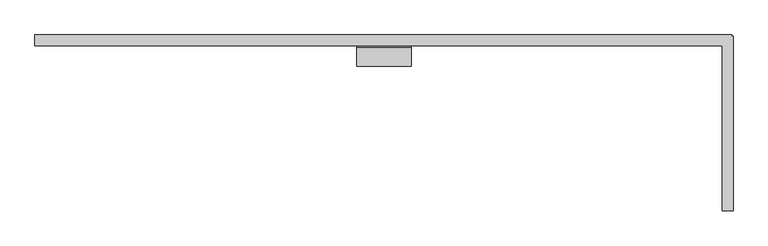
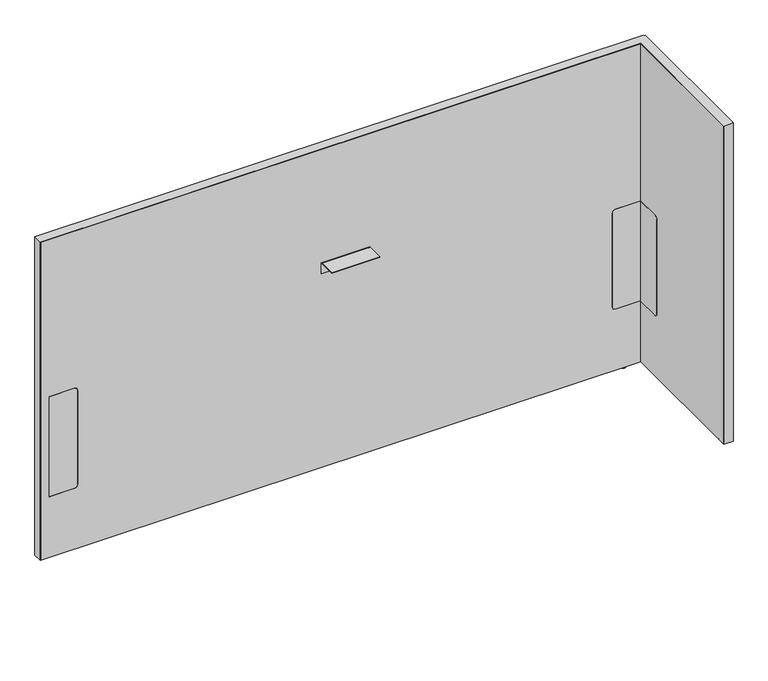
"""IFC4 building model written with IfcOpenShell, lengths in millimetres: furniture geometry, Steelcase - Answer Solution - Boundary Screen - L Return - Single Sided : 42H x 75W."""

from ifc_helpers import new_model, si_unit, point, frame, frame_2d, origin, place, context, project, spatial, polyline, circle_curve, ellipse_curve, trimmed, segment, composite_curve, outline, extrude, faceted_brep, source, transform, mapped, element, save
from ifc_brep_helpers import plane_surface, cylinder_surface, revolved_surface, advanced_brep


def furniture_e51d8ff3(model_context):
    return source(origin(), model_context, "Body", "SolidModel", [
        extrude(outline(composite_curve([segment(polyline([(-109.3501471, 549.6162029), (-29.0550397, 549.6162029), (-29.0550397, 213.7762137), (-109.3501471, 213.7762137)]), True, "CONTINUOUS"), segment(trimmed(circle_curve(frame_2d((-109.3501471, 223.9362137)), 10.16), [point((-109.3501471, 213.7762137))], [point((-119.5101471, 223.9362137))], False, "CARTESIAN"), True, "CONTINUOUS"), segment(polyline([(-119.5101471, 223.9362137), (-119.5101471, 539.4562029)]), True, "CONTINUOUS"), segment(trimmed(circle_curve(frame_2d((-109.3501471, 539.4562029)), 10.16), [point((-119.5101471, 539.4562029))], [point((-109.3501471, 549.6162029))], False, "CARTESIAN"), True, "CONTINUOUS")], self_intersect=False)), frame((2134.8191891, 0.0, 0.0), z_axis=(1.0, 0.0, 0.0), x_axis=(0.0, 1.0, 0.0)), (0.0, 0.0, 1.0), 0.6401544),
        advanced_brep(
        [(2149.6672074, -448.0136072, 0.0), (2156.6216144, -448.0136072, 0.0), (2142.7128003, -448.0136072, 0.0), (2158.0762685, -448.0136072, 1.2700001), (2141.2581463, -448.0136072, 1.2700001), (2158.0762685, -448.0136072, 2.9673238), (2141.2581463, -448.0136072, 2.9673238), (2159.0427877, -448.0136072, 2.9673238), (2140.291627, -448.0136072, 2.9673238), (2159.0427877, -448.0136072, 9.9059849), (2140.291627, -448.0136072, 9.9059849), (2149.6672074, -448.0136072, 9.9059849)],
        [
            (0, 1),
            (1, 2, circle_curve(frame((2149.6672074, -448.0136072, 0.0), z_axis=(0.0, 0.0, -1.0), x_axis=(1.0, 0.0, 0.0)), 6.9544071)),
            (2, 0),
            (2, 1, circle_curve(frame((2149.6672074, -448.0136072, 0.0), z_axis=(0.0, 0.0, -1.0), x_axis=(1.0, 0.0, 0.0)), 6.9544071)),
            (1, 3, circle_curve(frame((2156.7945484, -448.0136072, 1.2700001), z_axis=(0.0, -1.0, 0.0), x_axis=(0.0, 0.0, 1.0)), 1.2817201)),
            (3, 4, circle_curve(frame((2149.6672074, -448.0136072, 1.2700001), z_axis=(0.0, 0.0, -1.0), x_axis=(1.0, 0.0, 0.0)), 8.4090611)),
            (4, 2, circle_curve(frame((2142.5398663, -448.0136072, 1.2700001), z_axis=(0.0, -1.0, 0.0), x_axis=(0.0, 0.0, 1.0)), 1.2817201)),
            (4, 3, circle_curve(frame((2149.6672074, -448.0136072, 1.2700001), z_axis=(0.0, 0.0, -1.0), x_axis=(1.0, 0.0, 0.0)), 8.4090611)),
            (3, 5),
            (5, 6, circle_curve(frame((2149.6672074, -448.0136072, 2.9673238), z_axis=(0.0, 0.0, -1.0), x_axis=(1.0, 0.0, 0.0)), 8.4090611)),
            (6, 4),
            (6, 5, circle_curve(frame((2149.6672074, -448.0136072, 2.9673238), z_axis=(0.0, 0.0, -1.0), x_axis=(1.0, 0.0, 0.0)), 8.4090611)),
            (5, 7),
            (7, 8, circle_curve(frame((2149.6672074, -448.0136072, 2.9673238), z_axis=(0.0, 0.0, -1.0), x_axis=(1.0, 0.0, 0.0)), 9.3755804)),
            (8, 6),
            (8, 7, circle_curve(frame((2149.6672074, -448.0136072, 2.9673238), z_axis=(0.0, 0.0, -1.0), x_axis=(1.0, 0.0, 0.0)), 9.3755804)),
            (7, 9),
            (9, 10, circle_curve(frame((2149.6672074, -448.0136072, 9.9059849), z_axis=(0.0, 0.0, -1.0), x_axis=(1.0, 0.0, 0.0)), 9.3755804)),
            (10, 8),
            (10, 9, circle_curve(frame((2149.6672074, -448.0136072, 9.9059849), z_axis=(0.0, 0.0, -1.0), x_axis=(1.0, 0.0, 0.0)), 9.3755804)),
            (9, 11),
            (11, 10),
        ],
        [
            plane_surface(frame((2149.6672074, -448.0136072, 0.0), z_axis=(0.0, 0.0, -1.0), x_axis=(1.0, 0.0, 0.0))),
            revolved_surface(trimmed(ellipse_curve(frame((2156.7945484, -448.0136072, 1.2700001), z_axis=(0.0, 1.0, 0.0), x_axis=(0.0, 0.0, 1.0)), 1.2817201, 1.2817201), [point((2158.0762685, -448.0136072, 1.2700001))], [point((2156.6216144, -448.0136072, 0.0))], True, "CARTESIAN"), (2149.6672074, -448.0136072, 9.9059849), (0.0, 0.0, -1.0)),
            cylinder_surface(frame((2149.6672074, -448.0136072, 9.9059849), z_axis=(0.0, 0.0, -1.0), x_axis=(1.0, 0.0, 0.0)), 8.4090611),
            plane_surface(frame((2149.6672074, -448.0136072, 2.9673238), z_axis=(0.0, 0.0, -1.0), x_axis=(1.0, 0.0, 0.0))),
            cylinder_surface(frame((2149.6672074, -448.0136072, 9.9059849), z_axis=(0.0, 0.0, -1.0), x_axis=(1.0, 0.0, 0.0)), 9.3755804),
            plane_surface(frame((2149.6672074, -448.0136072, 9.9059849), z_axis=(0.0, 0.0, 1.0), x_axis=(1.0, 0.0, 0.0))),
        ],
        [
            (0, [[1, 2, 3]]),
            (0, [[-3, 4, -1]]),
            (1, [[-2, 5, 6, 7]]),
            (1, [[-4, -7, 8, -5]]),
            (2, [[-6, 9, 10, 11]]),
            (2, [[-8, -11, 12, -9]]),
            (3, [[-10, 13, 14, 15]]),
            (3, [[-12, -15, 16, -13]]),
            (4, [[-14, 17, 18, 19]]),
            (4, [[-16, -19, 20, -17]]),
            (5, [[-18, 21, 22]]),
            (5, [[-20, -22, -21]]),
        ],
    ),
        faceted_brep([(2161.2531179, 0.0, 1077.722), (2161.2531179, 0.0, 9.9059849), (2160.2621491, 0.0, 9.9059849), (2160.2621491, 0.0, 1076.742118), (230.8097779, 0.0, 1076.742118), (230.8097779, 0.0, 9.9059849), (229.8191891, 0.0, 9.9059849), (229.8191891, 0.0, 1077.722), (229.8191891, -29.6898332, 1077.722), (229.8191891, -29.6898332, 9.9059849), (230.8097779, -29.6898332, 9.9059849), (230.8097779, -29.6898332, 1076.742118), (2134.8191891, -29.6898332, 1076.742118), (2134.8191891, -29.6898332, 1077.722), (2160.2621491, -29.6898332, 1076.742118), (2160.2621491, -29.6898332, 9.9059849), (2161.2531179, -29.6898332, 9.9059849), (2161.2531179, -29.6898332, 1076.742118), (2161.2531179, -3.2625916, 1077.722), (2161.2531179, -3.2625916, 9.9059849), (2161.2531179, -4.252647, 9.9059849), (2161.2531179, -4.252647, 1076.742118), (2164.5152256, -3.2625916, 9.9059849), (2164.5152256, -4.252647, 9.9059849), (2160.2621491, -4.252647, 9.9059849), (2134.8191891, -4.252647, 9.9059849), (2134.8191891, -3.2625916, 9.9059849), (2160.2621491, -3.2625916, 9.9059849), (2134.8191891, -486.8898332, 1077.722), (2164.5152256, -486.8898332, 1077.722), (2164.5152256, -3.2625916, 1077.722), (2160.2621491, -3.2625916, 1076.742118), (2160.2621491, -4.252647, 1076.742118), (2134.8191891, -3.2625916, 1076.742118), (2134.8191891, -4.252647, 1076.742118), (2164.5152256, -4.252647, 1076.742118), (2164.5152256, -485.899196, 1076.742118), (2134.8191891, -485.899196, 1076.742118), (2134.8191891, -485.899196, 9.9059849), (2134.8191891, -486.8898332, 9.9059849), (2164.5152256, -486.8898332, 9.9059849), (2164.5152256, -485.899196, 9.9059849)], [[[0, 1, 2, 3, 4, 5, 6, 7]], [[8, 9, 10, 11, 12, 13]], [[14, 15, 16, 17]], [[1, 0, 18, 19]], [[17, 16, 20, 21]], [[2, 1, 19, 22, 23, 20, 16, 15, 24, 25, 26, 27]], [[7, 6, 9, 8]], [[0, 7, 8, 13, 28, 29, 30, 18]], [[3, 2, 27, 31]], [[15, 14, 32, 24]], [[4, 3, 31, 33, 34, 32, 14, 17, 21, 35, 36, 37, 12, 11]], [[5, 4, 11, 10]], [[6, 5, 10, 9]], [[26, 25, 34, 33]], [[37, 38, 39, 28, 13, 12]], [[29, 40, 41, 36, 35, 23, 22, 30]], [[27, 26, 33, 31]], [[30, 22, 19, 18]], [[34, 25, 24, 32]], [[23, 35, 21, 20]], [[38, 37, 36, 41]], [[39, 38, 41, 40]], [[28, 39, 40, 29]]]),
        extrude(outline(composite_curve([segment(polyline([(-86.8398151, 696.4680019), (-86.8398151, 698.5), (-34.9450855, 698.5)]), True, "CONTINUOUS"), segment(trimmed(circle_curve(frame_2d((-34.9450855, 693.2447477)), 5.2552523), [point((-34.9450855, 698.5))], [point((-29.6898332, 693.2447477))], False, "CARTESIAN"), True, "CONTINUOUS"), segment(polyline([(-29.6898332, 693.2447477), (-29.6898332, 660.4), (-31.7218162, 660.4), (-31.7218162, 693.0058743)]), True, "CONTINUOUS"), segment(trimmed(circle_curve(frame_2d((-35.1839438, 693.0058743)), 3.4621276), [point((-31.7218162, 693.0058743))], [point((-35.1839438, 696.4680019))], True, "CARTESIAN"), True, "CONTINUOUS"), segment(polyline([(-35.1839438, 696.4680019), (-86.8398151, 696.4680019)]), True, "CONTINUOUS")], self_intersect=False)), frame((1120.9685899, 0.0, 0.0), z_axis=(1.0, 0.0, 0.0), x_axis=(0.0, 1.0, 0.0)), (0.0, 0.0, 1.0), 152.4000969),
        advanced_brep(
        [(2087.3246853, -23.7588726, 9.9059849), (2087.3246853, -5.9309607, 9.9059849), (2087.3246853, -14.8449166, 9.9059849), (2087.3246853, -23.7588726, 2.9673238), (2087.3246853, -5.9309607, 2.9673238), (2087.3246853, -22.7915354, 2.9673238), (2087.3246853, -6.8982978, 2.9673238), (2087.3246853, -22.7915354, 1.6569081), (2087.3246853, -6.8982978, 1.6569081), (2087.3246853, -21.1346274, 0.0), (2087.3246853, -8.5552059, 0.0), (2087.3246853, -14.8449166, 0.0)],
        [
            (0, 1, circle_curve(frame((2087.3246853, -14.8449166, 9.9059849), z_axis=(0.0, 0.0, 1.0), x_axis=(0.0, 1.0, 0.0)), 8.913956)),
            (1, 2),
            (2, 0),
            (1, 0, circle_curve(frame((2087.3246853, -14.8449166, 9.9059849), z_axis=(0.0, 0.0, 1.0), x_axis=(0.0, 1.0, 0.0)), 8.913956)),
            (3, 4, circle_curve(frame((2087.3246853, -14.8449166, 2.9673238), z_axis=(0.0, 0.0, 1.0), x_axis=(0.0, 1.0, 0.0)), 8.913956)),
            (4, 1),
            (0, 3),
            (4, 3, circle_curve(frame((2087.3246853, -14.8449166, 2.9673238), z_axis=(0.0, 0.0, 1.0), x_axis=(0.0, 1.0, 0.0)), 8.913956)),
            (5, 6, circle_curve(frame((2087.3246853, -14.8449166, 2.9673238), z_axis=(0.0, 0.0, 1.0), x_axis=(0.0, 1.0, 0.0)), 7.9466188)),
            (6, 4),
            (3, 5),
            (6, 5, circle_curve(frame((2087.3246853, -14.8449166, 2.9673238), z_axis=(0.0, 0.0, 1.0), x_axis=(0.0, 1.0, 0.0)), 7.9466188)),
            (7, 8, circle_curve(frame((2087.3246853, -14.8449166, 1.6569081), z_axis=(0.0, 0.0, 1.0), x_axis=(0.0, 1.0, 0.0)), 7.9466188)),
            (8, 6),
            (5, 7),
            (8, 7, circle_curve(frame((2087.3246853, -14.8449166, 1.6569081), z_axis=(0.0, 0.0, 1.0), x_axis=(0.0, 1.0, 0.0)), 7.9466188)),
            (9, 10, circle_curve(frame((2087.3246853, -14.8449166, 0.0), z_axis=(0.0, 0.0, 1.0), x_axis=(0.0, 1.0, 0.0)), 6.2897107)),
            (10, 8, circle_curve(frame((2087.3246853, -8.5552059, 1.6569081), z_axis=(1.0, 0.0, 0.0), x_axis=(0.0, 1.0, 0.0)), 1.6569081)),
            (7, 9, circle_curve(frame((2087.3246853, -21.1346274, 1.6569081), z_axis=(1.0, 0.0, 0.0), x_axis=(0.0, -1.0, 0.0)), 1.6569081)),
            (10, 9, circle_curve(frame((2087.3246853, -14.8449166, 0.0), z_axis=(0.0, 0.0, 1.0), x_axis=(0.0, 1.0, 0.0)), 6.2897107)),
            (11, 10),
            (9, 11),
        ],
        [
            plane_surface(frame((2087.3246853, -14.8449166, 9.9059849), z_axis=(0.0, 0.0, 1.0), x_axis=(0.0, 1.0, 0.0))),
            cylinder_surface(frame((2087.3246853, -14.8449166, 9.9059849), z_axis=(0.0, 0.0, -1.0), x_axis=(0.0, 1.0, 0.0)), 8.913956),
            plane_surface(frame((2087.3246853, -14.8449166, 2.9673238), z_axis=(0.0, 0.0, -1.0), x_axis=(0.0, 1.0, 0.0))),
            cylinder_surface(frame((2087.3246853, -14.8449166, 9.9059849), z_axis=(0.0, 0.0, -1.0), x_axis=(0.0, 1.0, 0.0)), 7.9466188),
            revolved_surface(trimmed(ellipse_curve(frame((2087.3246853, -8.5552059, 1.6569081), z_axis=(-1.0, 0.0, 0.0), x_axis=(0.0, 1.0, 0.0)), 1.6569081, 1.6569081), [point((2087.3246853, -6.8982978, 1.6569081))], [point((2087.3246853, -8.5552059, 0.0))], True, "CARTESIAN"), (2087.3246853, -14.8449166, 9.9059849), (0.0, 0.0, -1.0)),
            plane_surface(frame((2087.3246853, -14.8449166, 0.0), z_axis=(0.0, 0.0, -1.0), x_axis=(0.0, 1.0, 0.0))),
        ],
        [
            (0, [[1, 2, 3]]),
            (0, [[4, -3, -2]]),
            (1, [[5, 6, -1, 7]]),
            (1, [[8, -7, -4, -6]]),
            (2, [[9, 10, -5, 11]]),
            (2, [[12, -11, -8, -10]]),
            (3, [[13, 14, -9, 15]]),
            (3, [[16, -15, -12, -14]]),
            (4, [[17, 18, -13, 19]]),
            (4, [[20, -19, -16, -18]]),
            (5, [[21, -17, 22]]),
            (5, [[-22, -20, -21]]),
        ],
    ),
        advanced_brep(
        [(230.8097779, 0.0, 1076.742118), (2160.2621491, 0.0, 1076.742118), (2160.2621491, 0.0, 9.9059849), (230.8097779, 0.0, 9.9059849), (347.9483813, -29.0550397, 539.4562029), (337.7883813, -29.0550397, 549.6162029), (258.1344836, -29.0550397, 549.6162029), (258.1344836, -29.0550397, 213.7762137), (337.7883813, -29.0550397, 213.7762137), (347.9483813, -29.0550397, 223.9362137), (2135.4593435, -29.0550397, 213.7762137), (2135.4593435, -29.0550397, 549.6162029), (2054.9109268, -29.0550397, 549.6162029), (2044.7509268, -29.0550397, 539.4562029), (2044.7509268, -29.0550397, 223.9362137), (2054.9109268, -29.0550397, 213.7762137), (230.8097779, -29.6898332, 1076.742118), (230.8097779, -29.6898332, 9.9059849), (2134.8191891, -29.6898332, 9.9059849), (2134.8191891, -29.6898332, 213.7762137), (2054.9109268, -29.6898332, 213.7762137), (2044.7509268, -29.6898332, 223.9362137), (2044.7509268, -29.6898332, 539.4562029), (2054.9109268, -29.6898332, 549.6162029), (2134.8191891, -29.6898332, 549.6162029), (2134.8191891, -29.6898332, 1076.742118), (337.7883813, -29.6898332, 549.6162029), (347.9483813, -29.6898332, 539.4562029), (347.9483813, -29.6898332, 223.9362137), (337.7883813, -29.6898332, 213.7762137), (258.1344836, -29.6898332, 213.7762137), (258.1344836, -29.6898332, 549.6162029), (2160.2621491, -4.252647, 9.9059849), (2164.5152256, -4.252647, 9.9059849), (2164.5152256, -485.899196, 9.9059849), (2134.8191891, -485.899196, 9.9059849), (2160.2621491, -4.252647, 1076.742118), (2134.8191891, -485.899196, 1076.742118), (2164.5152256, -485.899196, 1076.742118), (2164.5152256, -4.252647, 1076.742118), (2135.4593435, -109.3501471, 549.6162029), (2134.8191891, -109.3501471, 549.6162029), (2135.4593435, -109.3501471, 213.7762137), (2135.4593435, -119.5101471, 223.9362137), (2135.4593435, -119.5101471, 539.4562029), (2134.8191891, -109.3501471, 213.7762137), (2134.8191891, -119.5101471, 539.4562029), (2134.8191891, -119.5101471, 223.9362137)],
        [
            (0, 1),
            (1, 2),
            (2, 3),
            (3, 0),
            (4, 5, circle_curve(frame((337.7883813, -29.0550397, 539.4562029), z_axis=(0.0, -1.0, 0.0), x_axis=(0.0, 0.0, 1.0)), 10.16)),
            (5, 6),
            (6, 7),
            (7, 8),
            (8, 9, circle_curve(frame((337.7883813, -29.0550397, 223.9362137), z_axis=(0.0, -1.0, 0.0), x_axis=(0.0, 0.0, 1.0)), 10.16)),
            (9, 4),
            (10, 11),
            (11, 12),
            (12, 13, circle_curve(frame((2054.9109268, -29.0550397, 539.4562029), z_axis=(0.0, -1.0, 0.0), x_axis=(0.0, 0.0, 1.0)), 10.16)),
            (13, 14),
            (14, 15, circle_curve(frame((2054.9109268, -29.0550397, 223.9362137), z_axis=(0.0, -1.0, 0.0), x_axis=(0.0, 0.0, 1.0)), 10.16)),
            (15, 10),
            (16, 17),
            (17, 18),
            (18, 19),
            (19, 20),
            (20, 21, circle_curve(frame((2054.9109268, -29.6898332, 223.9362137), z_axis=(0.0, 1.0, 0.0), x_axis=(0.0, 0.0, 1.0)), 10.16)),
            (21, 22),
            (22, 23, circle_curve(frame((2054.9109268, -29.6898332, 539.4562029), z_axis=(0.0, 1.0, 0.0), x_axis=(0.0, 0.0, 1.0)), 10.16)),
            (23, 24),
            (24, 25),
            (25, 16),
            (26, 27, circle_curve(frame((337.7883813, -29.6898332, 539.4562029), z_axis=(0.0, 1.0, 0.0), x_axis=(0.0, 0.0, 1.0)), 10.16)),
            (27, 28),
            (28, 29, circle_curve(frame((337.7883813, -29.6898332, 223.9362137), z_axis=(0.0, 1.0, 0.0), x_axis=(0.0, 0.0, 1.0)), 10.16)),
            (29, 30),
            (30, 31),
            (31, 26),
            (16, 0),
            (3, 17),
            (2, 32),
            (32, 33),
            (33, 34),
            (34, 35),
            (35, 18),
            (1, 36),
            (36, 32),
            (25, 37),
            (37, 38),
            (38, 39),
            (39, 36),
            (26, 5),
            (4, 27),
            (9, 28),
            (8, 29),
            (7, 30),
            (6, 31),
            (11, 40),
            (40, 41),
            (41, 24),
            (23, 12),
            (42, 43, circle_curve(frame((2135.4593435, -109.3501471, 223.9362137), z_axis=(-1.0, 0.0, 0.0), x_axis=(0.0, 1.0, 0.0)), 10.16)),
            (43, 44),
            (44, 40, circle_curve(frame((2135.4593435, -109.3501471, 539.4562029), z_axis=(-1.0, 0.0, 0.0), x_axis=(0.0, 1.0, 0.0)), 10.16)),
            (10, 42),
            (15, 20),
            (19, 45),
            (45, 42),
            (14, 21),
            (13, 22),
            (35, 37),
            (41, 46, circle_curve(frame((2134.8191891, -109.3501471, 539.4562029), z_axis=(1.0, 0.0, 0.0), x_axis=(0.0, 1.0, 0.0)), 10.16)),
            (46, 47),
            (47, 45, circle_curve(frame((2134.8191891, -109.3501471, 223.9362137), z_axis=(1.0, 0.0, 0.0), x_axis=(0.0, 1.0, 0.0)), 10.16)),
            (38, 34),
            (33, 39),
            (44, 46),
            (43, 47),
        ],
        [
            plane_surface(frame((347.9483813, 0.0, 549.6162029), z_axis=(0.0, 1.0, 0.0), x_axis=(0.0, 0.0, -1.0))),
            plane_surface(frame((347.9483813, -29.0550397, 549.6162029), z_axis=(0.0, -1.0, 0.0), x_axis=(0.0, 0.0, 1.0))),
            plane_surface(frame((2160.2621491, -29.6898332, 1076.742118), z_axis=(0.0, -1.0, 0.0), x_axis=(-1.0, 0.0, 0.0))),
            plane_surface(frame((230.8097779, 0.0, 9.9059849), z_axis=(-1.0, 0.0, 0.0), x_axis=(0.0, -1.0, 0.0))),
            plane_surface(frame((2160.2621491, 0.0, 9.9059849), z_axis=(0.0, 0.0, -1.0), x_axis=(0.0, -1.0, 0.0))),
            plane_surface(frame((2160.2621491, 0.0, 1076.742118), z_axis=(1.0, 0.0, 0.0), x_axis=(0.0, -1.0, 0.0))),
            plane_surface(frame((230.8097779, 0.0, 1076.742118), z_axis=(0.0, 0.0, 1.0), x_axis=(0.0, -1.0, 0.0))),
            revolved_surface(polyline([(337.7883813, -29.6898332, 549.6162029), (337.7883813, -29.0550397, 549.6162029)]), (337.7883813, -29.6898332, 539.4562029), (0.0, -1.0, 0.0)),
            plane_surface(frame((347.9483813, 0.0, 223.9362137), z_axis=(-1.0, 0.0, 0.0), x_axis=(0.0, -1.0, 0.0))),
            revolved_surface(polyline([(337.7883813, -29.6898332, 234.0962137), (337.7883813, -29.0550397, 234.0962137)]), (337.7883813, -29.6898332, 223.9362137), (0.0, -1.0, 0.0)),
            plane_surface(frame((258.1344836, 0.0, 213.7762137), z_axis=(0.0, 0.0, 1.0), x_axis=(0.0, -1.0, 0.0))),
            plane_surface(frame((258.1344836, 0.0, 549.6162029), z_axis=(1.0, 0.0, 0.0), x_axis=(0.0, -1.0, 0.0))),
            plane_surface(frame((337.7883813, 0.0, 549.6162029), z_axis=(0.0, 0.0, -1.0), x_axis=(0.0, -1.0, 0.0))),
            plane_surface(frame((2135.4593435, 0.0, 549.6162029), z_axis=(0.0, 0.0, -1.0), x_axis=(0.0, -1.0, 0.0))),
            plane_surface(frame((2135.4593435, 0.0, 213.7762137), z_axis=(-1.0, 0.0, 0.0), x_axis=(0.0, -1.0, 0.0))),
            plane_surface(frame((2054.9109268, 0.0, 213.7762137), z_axis=(0.0, 0.0, 1.0), x_axis=(0.0, -1.0, 0.0))),
            revolved_surface(polyline([(2054.9109268, -29.6898332, 234.0962137), (2054.9109268, -29.0550397, 234.0962137)]), (2054.9109268, -29.6898332, 223.9362137), (0.0, -1.0, 0.0)),
            plane_surface(frame((2044.7509268, 0.0, 539.4562029), z_axis=(1.0, 0.0, 0.0), x_axis=(0.0, -1.0, 0.0))),
            revolved_surface(polyline([(2054.9109268, -29.6898332, 549.6162029), (2054.9109268, -29.0550397, 549.6162029)]), (2054.9109268, -29.6898332, 539.4562029), (0.0, -1.0, 0.0)),
            plane_surface(frame((2134.8191891, -485.899196, 1076.742118), z_axis=(-1.0, 0.0, 0.0), x_axis=(0.0, 0.0, 1.0))),
            plane_surface(frame((2164.5152256, -485.899196, 1076.742118), z_axis=(1.0, 0.0, 0.0), x_axis=(0.0, 0.0, -1.0))),
            plane_surface(frame((2164.5152256, -4.252647, 9.9059849), z_axis=(0.0, 1.0, 0.0), x_axis=(-1.0, 0.0, 0.0))),
            plane_surface(frame((2164.5152256, -485.899196, 1076.742118), z_axis=(0.0, -1.0, 0.0), x_axis=(-1.0, 0.0, 0.0))),
            revolved_surface(polyline([(2134.8191890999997, -99.1901471, 539.4562029), (2135.4593434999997, -99.1901471, 539.4562029)]), (-340.6902705, -109.3501471, 539.4562029), (-1.0, 0.0, 0.0)),
            plane_surface(frame((2164.5152256, -119.5101471, 223.9362137), z_axis=(0.0, 1.0, 0.0), x_axis=(-1.0, 0.0, 0.0))),
            revolved_surface(polyline([(2134.8191890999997, -99.1901471, 223.9362137), (2135.4593434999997, -99.1901471, 223.9362137)]), (-340.6902705, -109.3501471, 223.9362137), (-1.0, 0.0, 0.0)),
        ],
        [
            (0, [[1, 2, 3, 4]]),
            (1, [[5, 6, 7, 8, 9, 10]]),
            (1, [[11, 12, 13, 14, 15, 16]]),
            (2, [[17, 18, 19, 20, 21, 22, 23, 24, 25, 26], [27, 28, 29, 30, 31, 32]]),
            (3, [[-17, 33, -4, 34]]),
            (4, [[-3, 35, 36, 37, 38, 39, -18, -34]]),
            (5, [[-2, 40, 41, -35]]),
            (6, [[-1, -33, -26, 42, 43, 44, 45, -40]]),
            (7, [[-27, 46, -5, 47]]),
            (8, [[-28, -47, -10, 48]]),
            (9, [[-29, -48, -9, 49]]),
            (10, [[-30, -49, -8, 50]]),
            (11, [[-31, -50, -7, 51]]),
            (12, [[-32, -51, -6, -46]]),
            (13, [[52, 53, 54, -24, 55, -12]]),
            (14, [[56, 57, 58, -52, -11, 59]]),
            (15, [[-59, -16, 60, -20, 61, 62]]),
            (16, [[-21, -60, -15, 63]]),
            (17, [[-22, -63, -14, 64]]),
            (18, [[-23, -64, -13, -55]]),
            (19, [[65, -42, -25, -54, 66, 67, 68, -61, -19, -39]]),
            (20, [[69, -37, 70, -44]]),
            (21, [[-70, -36, -41, -45]]),
            (22, [[-65, -38, -69, -43]]),
            (23, [[-66, -53, -58, 71]]),
            (24, [[-67, -71, -57, 72]]),
            (25, [[-68, -72, -56, -62]]),
        ],
    ),
        extrude(outline(composite_curve([segment(polyline([(549.6162029, 337.7883813), (549.6162029, 258.1344836), (213.7762137, 258.1344836), (213.7762137, 337.7883813)]), True, "CONTINUOUS"), segment(trimmed(circle_curve(frame_2d((223.9362137, 337.7883813)), 10.16), [point((213.7762137, 337.7883813))], [point((223.9362137, 347.9483813))], False, "CARTESIAN"), True, "CONTINUOUS"), segment(polyline([(223.9362137, 347.9483813), (539.4562029, 347.9483813)]), True, "CONTINUOUS"), segment(trimmed(circle_curve(frame_2d((539.4562029, 337.7883813)), 10.16), [point((539.4562029, 347.9483813))], [point((549.6162029, 337.7883813))], False, "CARTESIAN"), True, "CONTINUOUS")], self_intersect=False)), frame((0.0, -29.6898332, 0.0), z_axis=(0.0, 1.0, 0.0), x_axis=(0.0, 0.0, 1.0)), (0.0, 0.0, 1.0), 0.6347935),
        extrude(outline(composite_curve([segment(trimmed(circle_curve(frame_2d((539.4562029, 2054.9109268)), 10.16), [point((549.6162029, 2054.9109268))], [point((539.4562029, 2044.7509268))], False, "CARTESIAN"), True, "CONTINUOUS"), segment(polyline([(539.4562029, 2044.7509268), (223.9362137, 2044.7509268)]), True, "CONTINUOUS"), segment(trimmed(circle_curve(frame_2d((223.9362137, 2054.9109268)), 10.16), [point((223.9362137, 2044.7509268))], [point((213.7762137, 2054.9109268))], False, "CARTESIAN"), True, "CONTINUOUS"), segment(polyline([(213.7762137, 2054.9109268), (213.7762137, 2134.8191891), (549.6162029, 2134.8191891), (549.6162029, 2054.9109268)]), True, "CONTINUOUS")], self_intersect=False)), frame((0.0, -29.6898332, 0.0), z_axis=(0.0, 1.0, 0.0), x_axis=(0.0, 0.0, 1.0)), (0.0, 0.0, 1.0), 0.6347935),
    ])


if __name__ == "__main__":
    model = new_model("IFC4")
    model_context = context("Model", 3, world=origin())
    ifc_project = project(units=[si_unit("LENGTHUNIT", "METRE", prefix="MILLI")], contexts=[model_context])
    site = spatial("IfcSite", under=ifc_project)
    building = spatial("IfcBuilding", under=site)
    placement = place(None, origin())
    furniture_shape = furniture_e51d8ff3(model_context)
    element("IfcFurniture", 1, ObjectType="Steelcase - Answer Solution - Boundary Screen - L Return - Single Sided : 42H x 75W", at=placement, inside=building, context=model_context, shape_type="MappedRepresentation", body=[
        mapped(furniture_shape, transform((0.0, 0.0, 0.0), x_axis=(1.0, 0.0, 0.0), y_axis=(0.0, 1.0, 0.0), z_axis=(0.0, 0.0, 1.0))),
    ])
    save(model, "model.ifc")
